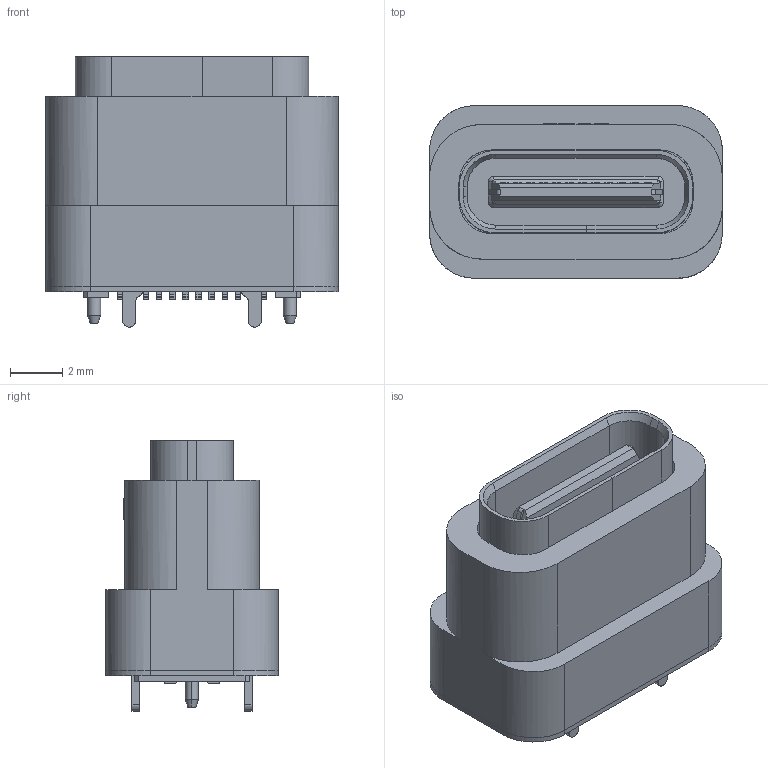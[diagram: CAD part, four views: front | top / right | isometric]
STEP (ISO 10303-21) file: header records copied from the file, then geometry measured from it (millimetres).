
FILE_DESCRIPTION (( 'STEP AP203' ), '1' );
FILE_NAME ('U5330-24PN9.3LF.STEP', '2026-09-22T02:21:59', ( '' ), ( '' ), 'SwSTEP 2.0', 'SolidWorks 2024', '' );
FILE_SCHEMA (( 'CONFIG_CONTROL_DESIGN' ));
Length unit declared in the file: millimetre
Products named in the file (3): U5330-24PN9.3LF(2); 2026091528; U5330-24PN9.3LF
Assembly tree (2 placements, depth 3):
  U5330-24PN9.3LF
    U5330-24PN9.3LF(2)
      2026091528
Bounding box: 11.2 x 6.6 x 10.35 mm (x, y, z)
Surface area: 1267.9 mm2 (no closed solid volume)
Topology: 0 solids, 6 shells, 1021 faces, 2894 edges, 1909 vertices
Faces by surface type: plane 737, bspline 284
Entity records: 40022 total; most frequent: CARTESIAN_POINT 19580, ORIENTED_EDGE 5766, EDGE_CURVE 2894, B_SPLINE_CURVE_WITH_KNOTS 2761, VERTEX_POINT 1909, DIRECTION 1619, EDGE_LOOP 1072, ADVANCED_FACE 1021
